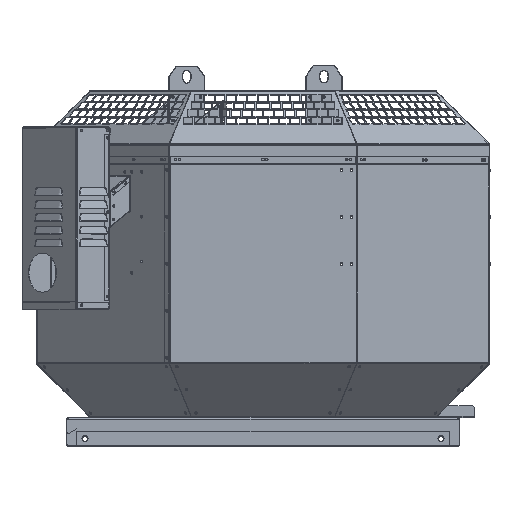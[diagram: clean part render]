
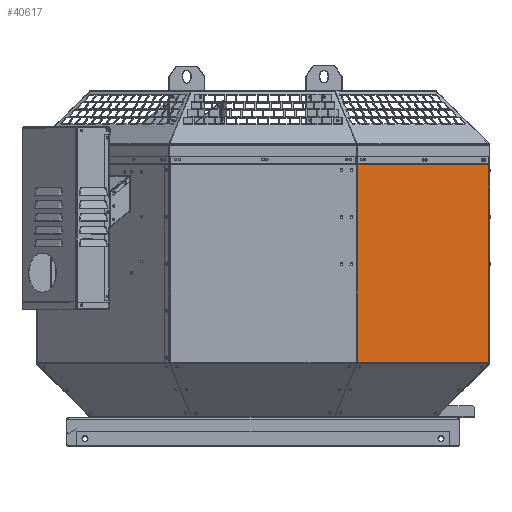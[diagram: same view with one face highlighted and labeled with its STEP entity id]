
A CAD part, top view. The second image highlights one B-rep face of the part: STEP entity #40617.
In plain terms, the highlighted planar face has unit normal (0.707, 0, 0.707).
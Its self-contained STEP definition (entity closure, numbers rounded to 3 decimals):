
#851 = LINE ( 'NONE', #117328, #57248 ) ;
#3495 = CARTESIAN_POINT ( 'NONE',  ( 150.786, 422.408, 359.745 ) ) ;
#11224 = VERTEX_POINT ( 'NONE', #79766 ) ;
#15522 = VERTEX_POINT ( 'NONE', #130140 ) ;
#16117 = DIRECTION ( 'NONE',  ( 0., -1., 0. ) ) ;
#23881 = VECTOR ( 'NONE', #125825, 1000. ) ;
#25523 = EDGE_CURVE ( 'NONE', #119708, #103620, #46691, .T. ) ;
#26739 = VECTOR ( 'NONE', #77500, 1000. ) ;
#27564 = EDGE_CURVE ( 'NONE', #119708, #92428, #109339, .T. ) ;
#28307 = DIRECTION ( 'NONE',  ( 0., -1., 0. ) ) ;
#32288 = EDGE_LOOP ( 'NONE', ( #139494, #113657, #48064, #127760, #79627, #111605, #95520, #129738 ) ) ;
#33032 = VECTOR ( 'NONE', #82159, 1000. ) ;
#33834 = AXIS2_PLACEMENT_3D ( 'NONE', #69316, #47190, #125779 ) ;
#37478 = VECTOR ( 'NONE', #55681, 1000. ) ;
#40617 = ADVANCED_FACE ( 'NONE', ( #136134 ), #114516, .T. ) ;
#46691 = LINE ( 'NONE', #105537, #66018 ) ;
#47190 = DIRECTION ( 'NONE',  ( 0.707, 0., 0.707 ) ) ;
#48064 = ORIENTED_EDGE ( 'NONE', *, *, #121921, .T. ) ;
#55681 = DIRECTION ( 'NONE',  ( 0.707, 0., -0.707 ) ) ;
#57248 = VECTOR ( 'NONE', #95238, 1000. ) ;
#59728 = DIRECTION ( 'NONE',  ( -0.707, 0., 0.707 ) ) ;
#62694 = VECTOR ( 'NONE', #59728, 1000. ) ;
#62977 = LINE ( 'NONE', #115554, #33032 ) ;
#66018 = VECTOR ( 'NONE', #16117, 1000. ) ;
#68000 = EDGE_CURVE ( 'NONE', #92428, #11224, #851, .T. ) ;
#69316 = CARTESIAN_POINT ( 'NONE',  ( 360.707, 436.408, 149.824 ) ) ;
#69372 = CARTESIAN_POINT ( 'NONE',  ( 360.707, 108.408, 149.824 ) ) ;
#73145 = CARTESIAN_POINT ( 'NONE',  ( 360.063, 108.408, 150.468 ) ) ;
#77500 = DIRECTION ( 'NONE',  ( -0.707, 0., 0.707 ) ) ;
#79627 = ORIENTED_EDGE ( 'NONE', *, *, #140596, .F. ) ;
#79766 = CARTESIAN_POINT ( 'NONE',  ( 359.745, 422.416, 150.786 ) ) ;
#80215 = EDGE_CURVE ( 'NONE', #15522, #125094, #62977, .T. ) ;
#80327 = LINE ( 'NONE', #138337, #62694 ) ;
#82159 = DIRECTION ( 'NONE',  ( 0., -1., 0. ) ) ;
#85400 = CARTESIAN_POINT ( 'NONE',  ( 150.468, 108.408, 360.063 ) ) ;
#86583 = VERTEX_POINT ( 'NONE', #88297 ) ;
#88146 = VECTOR ( 'NONE', #28307, 1000. ) ;
#88297 = CARTESIAN_POINT ( 'NONE',  ( 150.786, 422.416, 359.745 ) ) ;
#92428 = VERTEX_POINT ( 'NONE', #107012 ) ;
#95238 = DIRECTION ( 'NONE',  ( 0., 1., 0. ) ) ;
#95520 = ORIENTED_EDGE ( 'NONE', *, *, #27564, .T. ) ;
#95597 = CARTESIAN_POINT ( 'NONE',  ( 150.786, 436.408, 359.745 ) ) ;
#97303 = LINE ( 'NONE', #134301, #37478 ) ;
#103620 = VERTEX_POINT ( 'NONE', #73145 ) ;
#105537 = CARTESIAN_POINT ( 'NONE',  ( 360.063, 436.408, 150.468 ) ) ;
#107012 = CARTESIAN_POINT ( 'NONE',  ( 359.745, 422.408, 150.786 ) ) ;
#109339 = LINE ( 'NONE', #144875, #26739 ) ;
#111605 = ORIENTED_EDGE ( 'NONE', *, *, #25523, .F. ) ;
#113536 = LINE ( 'NONE', #69372, #23881 ) ;
#113657 = ORIENTED_EDGE ( 'NONE', *, *, #141936, .T. ) ;
#114516 = PLANE ( 'NONE',  #33834 ) ;
#115554 = CARTESIAN_POINT ( 'NONE',  ( 150.468, 436.408, 360.063 ) ) ;
#117328 = CARTESIAN_POINT ( 'NONE',  ( 359.745, 436.408, 150.786 ) ) ;
#119708 = VERTEX_POINT ( 'NONE', #144069 ) ;
#121921 = EDGE_CURVE ( 'NONE', #135161, #15522, #80327, .T. ) ;
#125094 = VERTEX_POINT ( 'NONE', #85400 ) ;
#125779 = DIRECTION ( 'NONE',  ( 0.707, 0., -0.707 ) ) ;
#125825 = DIRECTION ( 'NONE',  ( -0.707, 0., 0.707 ) ) ;
#127760 = ORIENTED_EDGE ( 'NONE', *, *, #80215, .T. ) ;
#129738 = ORIENTED_EDGE ( 'NONE', *, *, #68000, .T. ) ;
#130140 = CARTESIAN_POINT ( 'NONE',  ( 150.468, 422.408, 360.063 ) ) ;
#131323 = EDGE_CURVE ( 'NONE', #86583, #11224, #97303, .T. ) ;
#134301 = CARTESIAN_POINT ( 'NONE',  ( 360.707, 422.416, 149.824 ) ) ;
#135161 = VERTEX_POINT ( 'NONE', #3495 ) ;
#136134 = FACE_OUTER_BOUND ( 'NONE', #32288, .T. ) ;
#138337 = CARTESIAN_POINT ( 'NONE',  ( 150.786, 422.408, 359.745 ) ) ;
#139494 = ORIENTED_EDGE ( 'NONE', *, *, #131323, .F. ) ;
#140596 = EDGE_CURVE ( 'NONE', #103620, #125094, #113536, .T. ) ;
#141936 = EDGE_CURVE ( 'NONE', #86583, #135161, #144442, .T. ) ;
#144069 = CARTESIAN_POINT ( 'NONE',  ( 360.063, 422.408, 150.468 ) ) ;
#144442 = LINE ( 'NONE', #95597, #88146 ) ;
#144875 = CARTESIAN_POINT ( 'NONE',  ( 359.745, 422.408, 150.786 ) ) ;
